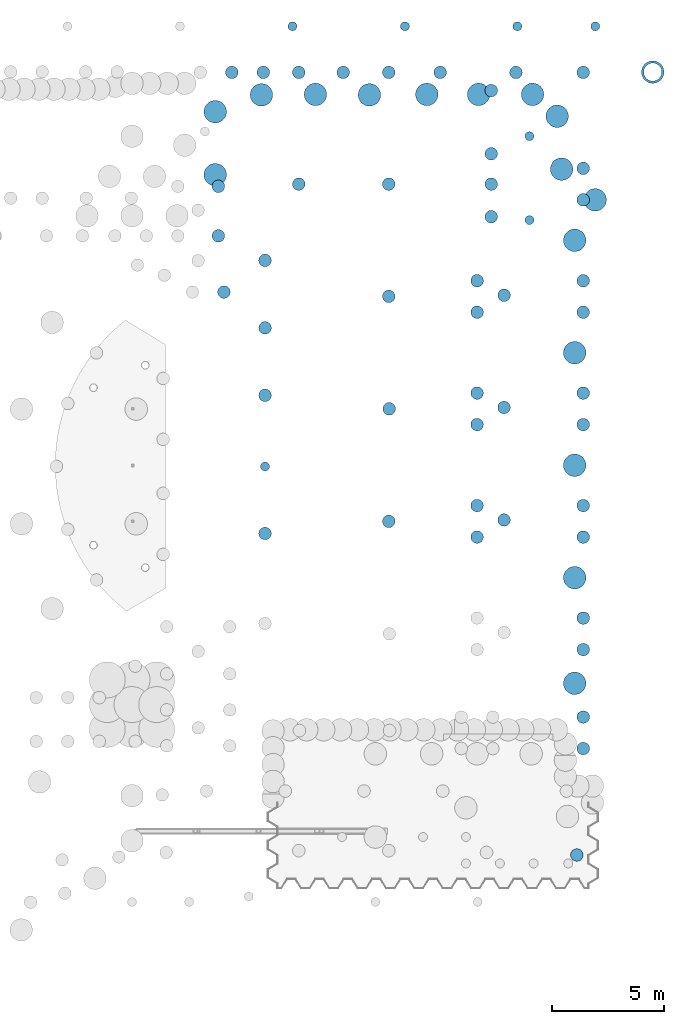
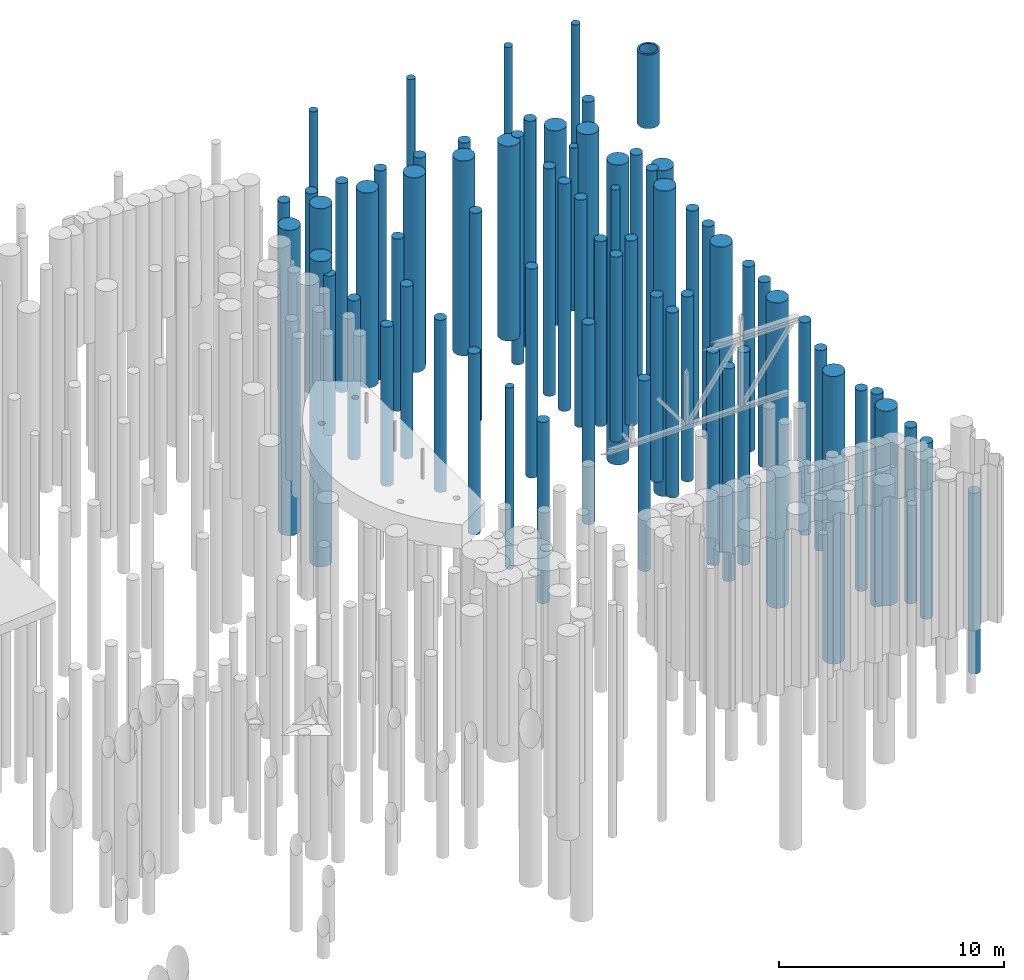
# One storey, part 6 of 104: 70 piles.
"""IFC2X3 building model written with IfcOpenShell, lengths in millimetres."""

from ifc_helpers import new_model, entity, si_unit, converted_unit, derived_unit, direction, frame, frame_2d, origin, place, context, subcontext, project, spatial, circle, hollow_circle, extrude, source, transform, mapped, material, element, save


model = new_model("IFC2X3")

# Units and contexts
model_context = context("Model", 3, precision=0.01, world=origin(), true_north=direction((6.12303176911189e-17, 1.0)))
body_context = subcontext(model_context, "Body", "Model", "MODEL_VIEW")
ifc_project = project(units=[si_unit("LENGTHUNIT", "METRE", prefix="MILLI"), si_unit("AREAUNIT", "SQUARE_METRE", prefix="MILLI"), si_unit("VOLUMEUNIT", "CUBIC_METRE"), converted_unit("PLANEANGLEUNIT", "DEGREE", entity("IfcRatioMeasure", 0.0174532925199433), si_unit("PLANEANGLEUNIT", "RADIAN"), dimensions=[0, 0, 0, 0, 0, 0, 0]), si_unit("MASSUNIT", "GRAM", prefix="KILO"), derived_unit("MASSDENSITYUNIT", [(si_unit("MASSUNIT", "GRAM", prefix="KILO"), 1), (si_unit("LENGTHUNIT", "METRE"), -3)]), derived_unit("MOMENTOFINERTIAUNIT", [(si_unit("LENGTHUNIT", "METRE"), 4)]), si_unit("TIMEUNIT", "SECOND"), si_unit("FREQUENCYUNIT", "HERTZ"), si_unit("THERMODYNAMICTEMPERATUREUNIT", "DEGREE_CELSIUS"), derived_unit("THERMALTRANSMITTANCEUNIT", [(si_unit("MASSUNIT", "GRAM", prefix="KILO"), 1), (si_unit("THERMODYNAMICTEMPERATUREUNIT", "KELVIN"), -1), (si_unit("TIMEUNIT", "SECOND"), -3)]), derived_unit("VOLUMETRICFLOWRATEUNIT", [(si_unit("LENGTHUNIT", "METRE"), 3), (si_unit("TIMEUNIT", "SECOND"), -1)]), si_unit("ELECTRICCURRENTUNIT", "AMPERE"), si_unit("ELECTRICVOLTAGEUNIT", "VOLT"), si_unit("POWERUNIT", "WATT"), si_unit("FORCEUNIT", "NEWTON", prefix="KILO"), si_unit("ILLUMINANCEUNIT", "LUX"), si_unit("LUMINOUSFLUXUNIT", "LUMEN"), si_unit("LUMINOUSINTENSITYUNIT", "CANDELA"), derived_unit("USERDEFINED", [(si_unit("MASSUNIT", "GRAM", prefix="KILO"), -1), (si_unit("LENGTHUNIT", "METRE"), -2), (si_unit("TIMEUNIT", "SECOND"), 3), (si_unit("LUMINOUSFLUXUNIT", "LUMEN"), 1)]), derived_unit("LINEARVELOCITYUNIT", [(si_unit("LENGTHUNIT", "METRE"), 1), (si_unit("TIMEUNIT", "SECOND"), -1)]), si_unit("PRESSUREUNIT", "PASCAL"), derived_unit("USERDEFINED", [(si_unit("LENGTHUNIT", "METRE"), -2), (si_unit("MASSUNIT", "GRAM", prefix="KILO"), 1), (si_unit("TIMEUNIT", "SECOND"), -2)]), derived_unit("LINEARFORCEUNIT", [(si_unit("MASSUNIT", "GRAM", prefix="KILO"), 1), (si_unit("LENGTHUNIT", "METRE"), 1), (si_unit("TIMEUNIT", "SECOND"), -2), (si_unit("LENGTHUNIT", "METRE"), -1)]), derived_unit("PLANARFORCEUNIT", [(si_unit("MASSUNIT", "GRAM", prefix="KILO"), 1), (si_unit("LENGTHUNIT", "METRE"), 1), (si_unit("TIMEUNIT", "SECOND"), -2), (si_unit("LENGTHUNIT", "METRE"), -2)])], contexts=[model_context])

# Site, building, storey
site_placement = place(None, origin())
site = spatial("IfcSite", under=ifc_project, at=site_placement, Name="Theater aan de Parade", CompositionType="ELEMENT")
building_placement = place(site_placement, origin())
building = spatial("IfcBuilding", under=site, at=building_placement, Name="Theater aan de Parade", CompositionType="ELEMENT")
storey_placement = place(building_placement, frame((0.0, 0.0, -5520.0)))
storey = spatial("IfcBuildingStorey", under=building, at=storey_placement, Name="-2 kelder", CompositionType="ELEMENT", Elevation=-5520.0)

# Piles
ifc_material_1 = material(Name="<Unnamed>")
shared_shape_1 = source(origin(), body_context, "Body", "SweptSolid", [
    extrude(circle(Radius=280.0, at=frame_2d((1.69197988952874e-14, -4.61316659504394e-13), x_axis=(1.0, 0.0))), frame((0.0, 0.0, -12360.0)), (0.0, 0.0, 1.0), 8639.99999999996),
])
for number, where in (
    (1, (71370.0, 44860.0, 5520.0)),
    (2, (71370.0, 42660.0, 5520.0)),
    (3, (71620.0, 40160.0, 5520.0)),
):
    element("IfcPile", number, at=place(storey_placement, frame(where)), inside=storey, material=ifc_material_1, Name="17_PBT_SFO_paal_rond:Ø560 (betonpaal)_bestaand", ObjectType="17_PBT_SFO_paal_rond:Ø560 (betonpaal)_bestaand", PredefinedType="NOTDEFINED", context=body_context, shape_type="MappedRepresentation", body=[
        mapped(shared_shape_1, transform((0.0, 0.0, 0.0), scale=1.0)),
    ])
shared_shape_2 = source(origin(), body_context, "Body", "SweptSolid", [
    extrude(circle(Radius=200.0, at=frame_2d((1.69197988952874e-14, -3.19843443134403e-13), x_axis=(1.0, 0.0))), frame((0.0, 0.0, -7860.0)), (0.0, 0.0, 1.0), 7529.99999999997),
])
for number, where in (
    (4, (74665.0, 51975.0, 5520.0)),
    (5, (79665.0, 51975.0, 5520.0)),
    (6, (84665.0, 51975.0, 5520.0)),
    (7, (88125.0, 51975.0, 5520.0)),
):
    element("IfcPile", number, at=place(storey_placement, frame(where)), inside=storey, material=ifc_material_1, Name="17_PBT_SFO_paal_rond:Ø400 (betonpaal)_bestaand", ObjectType="17_PBT_SFO_paal_rond:Ø400 (betonpaal)_bestaand", PredefinedType="NOTDEFINED", context=body_context, shape_type="MappedRepresentation", body=[
        mapped(shared_shape_2, transform((0.0, 0.0, 0.0), scale=1.0)),
    ])
shared_shape_3 = source(origin(), body_context, "Body", "SweptSolid", [
    extrude(circle(Radius=280.0, at=frame_2d((1.69197988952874e-14, -4.61316659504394e-13), x_axis=(1.0, 0.0))), frame((0.0, 0.0, -12860.0)), (0.0, 0.0, 1.0), 9839.99999999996),
])
for number, where in (
    (8, (73445.0, 35570.0, 5520.0)),
    (9, (73445.0, 29430.0, 5520.0)),
):
    element("IfcPile", number, at=place(storey_placement, frame(where)), inside=storey, material=ifc_material_1, Name="17_PBT_SFO_paal_rond:Ø560 (betonpaal)_bestaand", ObjectType="17_PBT_SFO_paal_rond:Ø560 (betonpaal)_bestaand", PredefinedType="NOTDEFINED", context=body_context, shape_type="MappedRepresentation", body=[
        mapped(shared_shape_3, transform((0.0, 0.0, 0.0), scale=1.0)),
    ])
shared_shape_4 = source(origin(), body_context, "Body", "SweptSolid", [
    extrude(circle(Radius=280.0, at=frame_2d((1.69197988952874e-14, -4.61316659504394e-13), x_axis=(1.0, 0.0))), frame((0.0, 0.0, -13360.0)), (0.0, 0.0, 1.0), 10340.0),
])
for number, where in (
    (10, (71970.0, 49925.0, 5520.0)),
    (11, (78945.0, 29970.0, 5520.0)),
):
    element("IfcPile", number, at=place(storey_placement, frame(where)), inside=storey, material=ifc_material_1, Name="17_PBT_SFO_paal_rond:Ø560 (betonpaal)_bestaand", ObjectType="17_PBT_SFO_paal_rond:Ø560 (betonpaal)_bestaand", PredefinedType="NOTDEFINED", context=body_context, shape_type="MappedRepresentation", body=[
        mapped(shared_shape_4, transform((0.0, 0.0, 0.0), scale=1.0)),
    ])
shared_shape_5 = source(origin(), body_context, "Body", "SweptSolid", [
    extrude(circle(Radius=280.0, at=frame_2d((1.69197988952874e-14, -4.61316659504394e-13), x_axis=(1.0, 0.0))), frame((0.0, 0.0, -13860.0)), (0.0, 0.0, 1.0), 10840.0),
])
for number, where in (
    (12, (73370.0, 49925.0, 5520.0)),
    (13, (78965.0, 34970.0, 5520.0)),
):
    element("IfcPile", number, at=place(storey_placement, frame(where)), inside=storey, material=ifc_material_1, Name="17_PBT_SFO_paal_rond:Ø560 (betonpaal)_bestaand", ObjectType="17_PBT_SFO_paal_rond:Ø560 (betonpaal)_bestaand", PredefinedType="NOTDEFINED", context=body_context, shape_type="MappedRepresentation", body=[
        mapped(shared_shape_5, transform((0.0, 0.0, 0.0), scale=1.0)),
    ])
shared_shape_6 = source(origin(), body_context, "Body", "SweptSolid", [
    extrude(circle(Radius=280.0, at=frame_2d((-1.69197988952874e-14, -5.23489148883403e-13), x_axis=(1.0, 0.0))), frame((0.0, 0.0, -14360.0)), (0.0, 0.0, 1.0), 11340.0),
])
for number, where in (
    (14, (74945.0, 49925.0, 5520.0)),
    (15, (76920.0, 49925.0, 5520.0)),
    (16, (78945.0, 49925.0, 5520.0)),
    (17, (81230.0, 49925.0, 5520.0)),
    (18, (78945.0, 44960.0, 5520.0)),
    (19, (78945.0, 39970.0, 5520.0)),
):
    element("IfcPile", number, at=place(storey_placement, frame(where)), inside=storey, material=ifc_material_1, Name="17_PBT_SFO_paal_rond:Ø560 (betonpaal)_bestaand", ObjectType="17_PBT_SFO_paal_rond:Ø560 (betonpaal)_bestaand", PredefinedType="NOTDEFINED", context=body_context, shape_type="MappedRepresentation", body=[
        mapped(shared_shape_6, transform((0.0, 0.0, 0.0), scale=1.0)),
    ])
shared_shape_7 = source(origin(), body_context, "Body", "SweptSolid", [
    extrude(circle(Radius=280.0, at=frame_2d((1.69197988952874e-14, -4.61316659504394e-13), x_axis=(1.0, 0.0))), frame((0.0, 0.0, -15360.0)), (0.0, 0.0, 1.0), 12340.0),
])
for number, where in (
    (20, (84600.0, 49925.0, 5520.0)),
    (21, (87590.0, 49925.0, 5520.0)),
    (22, (83500.0, 44960.0, 5520.0)),
    (23, (83500.0, 43510.0, 5520.0)),
    (24, (83500.0, 46310.0, 5520.0)),
    (25, (83500.0, 49120.0, 5520.0)),
):
    element("IfcPile", number, at=place(storey_placement, frame(where)), inside=storey, material=ifc_material_1, Name="17_PBT_SFO_paal_rond:Ø560 (betonpaal)_bestaand", ObjectType="17_PBT_SFO_paal_rond:Ø560 (betonpaal)_bestaand", PredefinedType="NOTDEFINED", context=body_context, shape_type="MappedRepresentation", body=[
        mapped(shared_shape_7, transform((0.0, 0.0, 0.0), scale=1.0)),
    ])
shared_shape_8 = source(origin(), body_context, "Body", "SweptSolid", [
    extrude(circle(Radius=280.0, at=frame_2d((1.69197988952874e-14, -4.61316659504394e-13), x_axis=(1.0, 0.0))), frame((0.0, 0.0, -12360.0)), (0.0, 0.0, 1.0), 9339.99999999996),
])
for number, where in (
    (26, (74945.0, 44960.0, 5520.0)),
    (27, (73445.0, 38570.0, 5520.0)),
    (28, (73445.0, 41570.0, 5520.0)),
):
    element("IfcPile", number, at=place(storey_placement, frame(where)), inside=storey, material=ifc_material_1, Name="17_PBT_SFO_paal_rond:Ø560 (betonpaal)_bestaand", ObjectType="17_PBT_SFO_paal_rond:Ø560 (betonpaal)_bestaand", PredefinedType="NOTDEFINED", context=body_context, shape_type="MappedRepresentation", body=[
        mapped(shared_shape_8, transform((0.0, 0.0, 0.0), scale=1.0)),
    ])
shared_shape_9 = source(origin(), body_context, "Body", "SweptSolid", [
    extrude(circle(Radius=200.0, at=frame_2d((1.69197988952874e-14, -3.47332565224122e-13), x_axis=(1.0, 0.0))), frame((0.0, 0.0, -11860.0)), (0.0, 0.0, 1.0), 8839.99999999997),
])
for number, where in (
    (29, (85200.0, 43360.0, 5520.0)),
    (30, (85200.0, 47090.0, 5520.0)),
):
    element("IfcPile", number, at=place(storey_placement, frame(where)), inside=storey, material=ifc_material_1, Name="17_PBT_SFO_paal_rond:Ø400 (betonpaal)_bestaand", ObjectType="17_PBT_SFO_paal_rond:Ø400 (betonpaal)_bestaand", PredefinedType="NOTDEFINED", context=body_context, shape_type="MappedRepresentation", body=[
        mapped(shared_shape_9, transform((0.0, 0.0, 0.0), scale=1.0)),
    ])
shared_shape_10 = source(origin(), body_context, "Body", "SweptSolid", [
    extrude(circle(Radius=280.0, at=frame_2d((1.69197988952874e-14, -4.61316659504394e-13), x_axis=(1.0, 0.0))), frame((0.0, 0.0, -15360.0)), (0.0, 0.0, 1.0), 12040.0),
])
for number, where in (
    (31, (87590.0, 44260.0, 5520.0)),
    (32, (87590.0, 45660.0, 5520.0)),
):
    element("IfcPile", number, at=place(storey_placement, frame(where)), inside=storey, material=ifc_material_1, Name="17_PBT_SFO_paal_rond:Ø560 (betonpaal)_bestaand", ObjectType="17_PBT_SFO_paal_rond:Ø560 (betonpaal)_bestaand", PredefinedType="NOTDEFINED", context=body_context, shape_type="MappedRepresentation", body=[
        mapped(shared_shape_10, transform((0.0, 0.0, 0.0), scale=1.0)),
    ])
shared_shape_11 = source(origin(), body_context, "Body", "SweptSolid", [
    extrude(circle(Radius=200.0, at=frame_2d((1.69197988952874e-14, -3.02923644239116e-13), x_axis=(1.0, 0.0))), frame((0.0, 0.0, -12860.0)), (0.0, 0.0, 1.0), 9839.99999999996),
])
pile_1_placement = place(storey_placement, frame((73445.0, 32410.0, 5520.0)))
element("IfcPile", 33, at=pile_1_placement, inside=storey, material=ifc_material_1, Name="17_PBT_SFO_paal_rond:Ø400 (betonpaal)_bestaand", ObjectType="17_PBT_SFO_paal_rond:Ø400 (betonpaal)_bestaand", PredefinedType="NOTDEFINED", context=body_context, shape_type="MappedRepresentation", body=[
    mapped(shared_shape_11, transform((0.0, 0.0, 0.0), scale=1.0)),
])
shared_shape_12 = source(origin(), body_context, "Body", "SweptSolid", [
    extrude(circle(Radius=280.0, at=frame_2d((1.69197988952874e-14, -4.61316659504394e-13), x_axis=(1.0, 0.0))), frame((0.0, 0.0, -14860.0)), (0.0, 0.0, 1.0), 11540.0),
])
for number, where in (
    (34, (87590.0, 40665.0, 5520.0)),
    (35, (87590.0, 39265.0, 5520.0)),
    (36, (87590.0, 30670.0, 5520.0)),
    (37, (84070.0, 30030.0, 5520.0)),
    (38, (82870.0, 30670.0, 5520.0)),
    (39, (82870.0, 29270.0, 5520.0)),
    (40, (87590.0, 24270.0, 5520.0)),
):
    element("IfcPile", number, at=place(storey_placement, frame(where)), inside=storey, material=ifc_material_1, Name="17_PBT_SFO_paal_rond:Ø560 (betonpaal)_bestaand", ObjectType="17_PBT_SFO_paal_rond:Ø560 (betonpaal)_bestaand", PredefinedType="NOTDEFINED", context=body_context, shape_type="MappedRepresentation", body=[
        mapped(shared_shape_12, transform((0.0, 0.0, 0.0), scale=1.0)),
    ])
shared_shape_13 = source(origin(), body_context, "Body", "SweptSolid", [
    extrude(circle(Radius=280.0, at=frame_2d((-1.69197988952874e-14, -5.23489148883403e-13), x_axis=(1.0, 0.0))), frame((0.0, 0.0, -13360.0)), (0.0, 0.0, 1.0), 10040.0),
])
for number, where in (
    (41, (84070.0, 40020.0, 5520.0)),
    (42, (82870.0, 40665.0, 5520.0)),
    (43, (82870.0, 39265.0, 5520.0)),
    (44, (87590.0, 35670.0, 5520.0)),
    (45, (84070.0, 35030.0, 5520.0)),
    (46, (82870.0, 35670.0, 5520.0)),
    (47, (82870.0, 34270.0, 5520.0)),
    (48, (87590.0, 34270.0, 5520.0)),
):
    element("IfcPile", number, at=place(storey_placement, frame(where)), inside=storey, material=ifc_material_1, Name="17_PBT_SFO_paal_rond:Ø560 (betonpaal)_bestaand", ObjectType="17_PBT_SFO_paal_rond:Ø560 (betonpaal)_bestaand", PredefinedType="NOTDEFINED", context=body_context, shape_type="MappedRepresentation", body=[
        mapped(shared_shape_13, transform((0.0, 0.0, 0.0), scale=1.0)),
    ])
shared_shape_14 = source(origin(), body_context, "Body", "SweptSolid", [
    extrude(circle(Radius=280.0, at=frame_2d((-1.69197988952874e-14, -5.23489148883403e-13), x_axis=(1.0, 0.0))), frame((0.0, 0.0, -14860.0)), (0.0, 0.0, 1.0), 10880.0),
])
for number, where in (
    (49, (87590.0, 29270.0, 5520.0)),
    (50, (87590.0, 25670.0, 5520.0)),
):
    element("IfcPile", number, at=place(storey_placement, frame(where)), inside=storey, material=ifc_material_1, Name="17_PBT_SFO_paal_rond:Ø560 (betonpaal)_bestaand", ObjectType="17_PBT_SFO_paal_rond:Ø560 (betonpaal)_bestaand", PredefinedType="NOTDEFINED", context=body_context, shape_type="MappedRepresentation", body=[
        mapped(shared_shape_14, transform((0.0, 0.0, 0.0), scale=1.0)),
    ])
shared_shape_15 = source(origin(), body_context, "Body", "SweptSolid", [
    extrude(circle(Radius=280.0, at=frame_2d((1.69197988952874e-14, -4.61316659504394e-13), x_axis=(1.0, 0.0))), frame((0.0, 0.0, -12860.0)), (0.0, 0.0, 1.0), 9539.99999999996),
])
for number, where in (
    (51, (87590.0, 21270.0, 5520.0)),
    (52, (87590.0, 19870.0, 5520.0)),
):
    element("IfcPile", number, at=place(storey_placement, frame(where)), inside=storey, material=ifc_material_1, Name="17_PBT_SFO_paal_rond:Ø560 (betonpaal)_bestaand", ObjectType="17_PBT_SFO_paal_rond:Ø560 (betonpaal)_bestaand", PredefinedType="NOTDEFINED", context=body_context, shape_type="MappedRepresentation", body=[
        mapped(shared_shape_15, transform((0.0, 0.0, 0.0), scale=1.0)),
    ])
shared_shape_16 = source(origin(), body_context, "Body", "SweptSolid", [
    extrude(circle(Radius=280.0, at=frame_2d((1.69197988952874e-14, -4.61316659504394e-13), x_axis=(1.0, 0.0))), frame((0.0, 0.0, -12860.0)), (0.0, 0.0, 1.0), 9809.99999999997),
])
pile_2_placement = place(storey_placement, frame((87306.0, 15137.0, 5520.0)))
element("IfcPile", 53, at=pile_2_placement, inside=storey, material=ifc_material_1, Name="17_PBT_SFO_paal_rond:Ø560 (betonpaal)_bestaand", ObjectType="17_PBT_SFO_paal_rond:Ø560 (betonpaal)_bestaand", PredefinedType="NOTDEFINED", context=body_context, shape_type="MappedRepresentation", body=[
    mapped(shared_shape_16, transform((0.0, 0.0, 0.0), scale=1.0)),
])
shared_shape_17 = source(origin(), body_context, "Body", "SweptSolid", [
    extrude(hollow_circle(Radius=500.0, WallThickness=100.0, at=frame_2d((-2.29069567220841e-14, -8.07772287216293e-13), x_axis=(1.0, 0.0))), frame((0.0, 0.0, -5400.0)), (0.0, 0.0, 1.0), 3999.99999999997),
])
pile_3_placement = place(storey_placement, frame((90680.0, 49940.0, 5520.0)))
element("IfcPile", 54, at=pile_3_placement, inside=storey, material=ifc_material_1, Name="17_PBT_SFO_putring:Ø1000 (putring)_bestaand", ObjectType="17_PBT_SFO_putring:Ø1000 (putring)_bestaand", PredefinedType="NOTDEFINED", context=body_context, shape_type="MappedRepresentation", body=[
    mapped(shared_shape_17, transform((0.0, 0.0, 0.0), scale=1.0)),
])
ifc_material_2 = material(Name="00_PBT_MAT_grout")
shared_shape_18 = source(origin(), body_context, "Body", "SweptSolid", [
    extrude(circle(Radius=500.0, at=frame_2d((2.57497682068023e-28, -8.84207602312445e-13), x_axis=(1.0, 0.0))), frame((0.0, 0.0, -19610.0)), (0.0, 0.0, 1.0), 16570.0),
])
for number, where in (
    (55, (87211.0, 42462.4999999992, 5520.0)),
    (56, (87211.0, 37462.4999999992, 5520.0)),
    (57, (87211.0, 32462.4999999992, 5520.0)),
):
    element("IfcPile", number, at=place(storey_placement, frame(where)), inside=storey, material=ifc_material_2, Name="17_PBT_SFO_paal_rond:Ø1000 (jetgroutpaal) binnen kelder", ObjectType="17_PBT_SFO_paal_rond:Ø1000 (jetgroutpaal) binnen kelder", PredefinedType="NOTDEFINED", context=body_context, shape_type="MappedRepresentation", body=[
        mapped(shared_shape_18, transform((0.0, 0.0, 0.0), scale=1.0)),
    ])
shared_shape_19 = source(origin(), body_context, "Body", "SweptSolid", [
    extrude(circle(Radius=500.0, at=frame_2d((2.57497682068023e-28, -8.84207602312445e-13), x_axis=(1.0, 0.0))), frame((0.0, 0.0, -19610.0)), (0.0, 0.0, 1.0), 15610.0),
])
pile_4_placement = place(storey_placement, frame((87211.0, 27462.4999999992, 5520.0)))
element("IfcPile", 58, at=pile_4_placement, inside=storey, material=ifc_material_2, Name="17_PBT_SFO_paal_rond:Ø1000 (jetgroutpaal) binnen kelder", ObjectType="17_PBT_SFO_paal_rond:Ø1000 (jetgroutpaal) binnen kelder", PredefinedType="NOTDEFINED", context=body_context, shape_type="MappedRepresentation", body=[
    mapped(shared_shape_19, transform((0.0, 0.0, 0.0), scale=1.0)),
])
shared_shape_20 = source(origin(), body_context, "Body", "SweptSolid", [
    extrude(circle(Radius=500.0, at=frame_2d((3.3839597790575e-14, -7.7318529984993e-13), x_axis=(1.0, 0.0))), frame((0.0, 0.0, -13610.0)), (0.0, 0.0, 1.0), 10570.0),
])
for number, where in (
    (59, (87211.0, 22770.0, 5520.0)),
    (60, (75685.8127325, 48947.0, 5520.0)),
    (61, (73285.8127325, 48927.0, 5520.0)),
    (62, (78085.8127325, 48927.0, 5520.0)),
):
    element("IfcPile", number, at=place(storey_placement, frame(where)), inside=storey, material=ifc_material_2, Name="17_PBT_SFO_paal_rond:Ø1000 (jetgroutpaal) binnen kelder", ObjectType="17_PBT_SFO_paal_rond:Ø1000 (jetgroutpaal) binnen kelder", PredefinedType="NOTDEFINED", context=body_context, shape_type="MappedRepresentation", body=[
        mapped(shared_shape_20, transform((0.0, 0.0, 0.0), scale=1.0)),
    ])
shared_shape_21 = source(origin(), body_context, "Body", "SweptSolid", [
    extrude(circle(Radius=500.0, at=frame_2d((2.68818011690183e-27, 7.55673060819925e-13), x_axis=(1.0, 0.0))), frame((0.0, 0.0, -13610.0), z_axis=(0.0, 0.0, 1.0), x_axis=(-1.0, 0.0, 0.0)), (0.0, 0.0, 1.0), 10570.0),
])
for number, where, z_axis, x_axis in (
    (63, (85336.8107076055, 48947.0, 5520.0), (0.0, 0.0, 1.0), (-1.0, 0.0, 0.0)),
    (64, (82936.8107076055, 48947.0, 5520.0), (0.0, 0.0, 1.0), (-1.0, 0.0, 0.0)),
    (65, (80636.8107076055, 48947.0, 5520.0), (0.0, 0.0, 1.0), (-1.0, 0.0, 0.0)),
    (66, (86430.1683175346, 47976.8723406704, 5520.0), (0.0, 0.0, 1.0), (-1.0, 0.0, 0.0)),
):
    element("IfcPile", number, at=place(storey_placement, frame(where, z_axis=z_axis, x_axis=x_axis)), inside=storey, material=ifc_material_2, Name="17_PBT_SFO_paal_rond:Ø1000 (jetgroutpaal) binnen kelder", ObjectType="17_PBT_SFO_paal_rond:Ø1000 (jetgroutpaal) binnen kelder", PredefinedType="NOTDEFINED", context=body_context, shape_type="MappedRepresentation", body=[
        mapped(shared_shape_21, transform((0.0, 0.0, 0.0), scale=1.0)),
    ])
shared_shape_22 = source(origin(), body_context, "Body", "SweptSolid", [
    extrude(circle(Radius=500.0, at=frame_2d((2.68818011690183e-27, 7.55673060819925e-13), x_axis=(1.0, 0.0))), frame((0.0, 0.0, -19610.0), z_axis=(0.0, 0.0, 1.0), x_axis=(-1.0, 0.0, 0.0)), (0.0, 0.0, 1.0), 16270.0),
])
for number, where, z_axis, x_axis in (
    (67, (86630.1683175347, 45626.8723406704, 5520.0), (0.0, 0.0, 1.0), (-1.0, 0.0, 0.0)),
    (68, (88120.1683175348, 44260.0, 5520.0), (0.0, 0.0, 1.0), (-1.0, 0.0, 0.0)),
):
    element("IfcPile", number, at=place(storey_placement, frame(where, z_axis=z_axis, x_axis=x_axis)), inside=storey, material=ifc_material_2, Name="17_PBT_SFO_paal_rond:Ø1000 (jetgroutpaal) binnen kelder", ObjectType="17_PBT_SFO_paal_rond:Ø1000 (jetgroutpaal) binnen kelder", PredefinedType="NOTDEFINED", context=body_context, shape_type="MappedRepresentation", body=[
        mapped(shared_shape_22, transform((0.0, 0.0, 0.0), scale=1.0)),
    ])
shared_shape_23 = source(origin(), body_context, "Body", "SweptSolid", [
    extrude(circle(Radius=500.0, at=frame_2d((2.57497682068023e-28, -8.84207602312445e-13), x_axis=(1.0, 0.0))), frame((0.0, 0.0, -19610.0)), (0.0, 0.0, 1.0), 16570.0),
])
for number, where in (
    (69, (71231.2707440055, 45376.8723406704, 5520.0)),
    (70, (71231.2707440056, 48176.8723406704, 5520.0)),
):
    element("IfcPile", number, at=place(storey_placement, frame(where)), inside=storey, material=ifc_material_2, Name="17_PBT_SFO_paal_rond:Ø1000 (jetgroutpaal) buiten kelder", ObjectType="17_PBT_SFO_paal_rond:Ø1000 (jetgroutpaal) buiten kelder", PredefinedType="NOTDEFINED", context=body_context, shape_type="MappedRepresentation", body=[
        mapped(shared_shape_23, transform((0.0, 0.0, 0.0), scale=1.0)),
    ])

save(model, "model.ifc")
